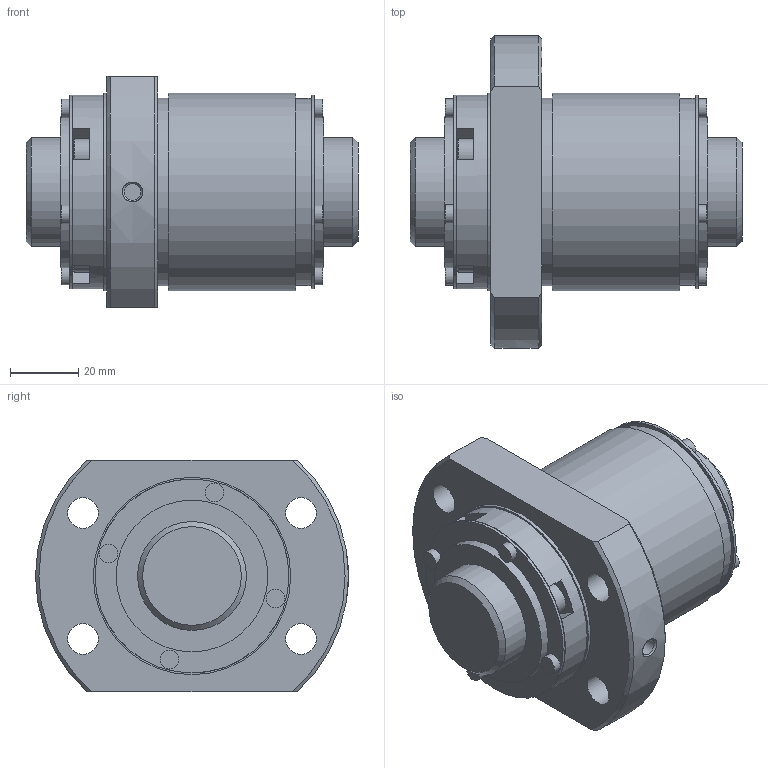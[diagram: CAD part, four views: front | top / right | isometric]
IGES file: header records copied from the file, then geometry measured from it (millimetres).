
Start section: Data from Parasolid IGES Translator 26.0.171, Copyright(c) 2006 Siemens PLM Software. All Rights Reserved.
Global section: file name: BLK3232-3.6ZZG1+97.6LC3_N0_1300.igs; native system: By Siemens PLM Incorporated; preprocessor: XPlus GENERIC/IGES 26.0.171; author: Noname; organization: Noname; date: 20250116.070544; units: millimetre
Bounding box: 97.6 x 92 x 68 mm (x, y, z)
Surface area: 48598.3 mm2 (no closed solid volume)
Topology: 0 solids, 0 shells, 156 faces, 704 edges, 634 vertices
Faces by surface type: extrusion 95, revolution 61
